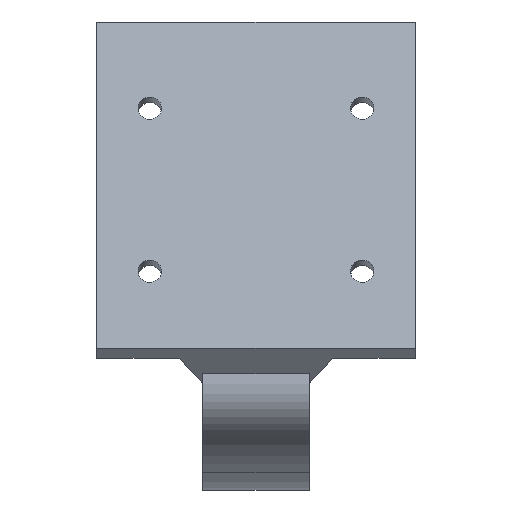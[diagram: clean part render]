
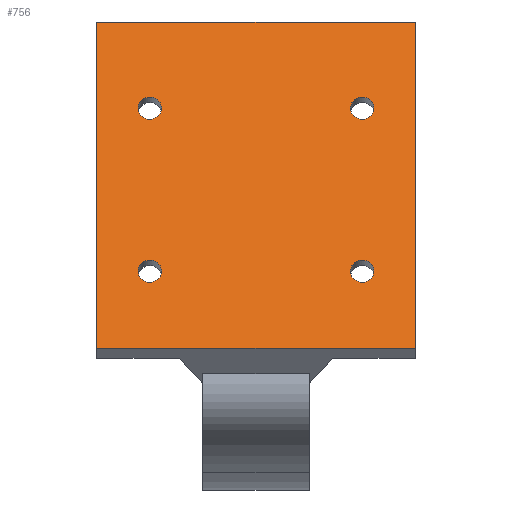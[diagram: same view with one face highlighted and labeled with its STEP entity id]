
A CAD part, top view. The second image highlights one B-rep face of the part: STEP entity #756.
In plain terms, the highlighted planar face has unit normal (0, 0.336, 0.942).
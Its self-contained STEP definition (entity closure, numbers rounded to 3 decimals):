
#37=FACE_BOUND('',#145,.T.);
#38=FACE_BOUND('',#146,.T.);
#39=FACE_BOUND('',#147,.T.);
#40=FACE_BOUND('',#148,.T.);
#77=CIRCLE('',#815,2.);
#78=CIRCLE('',#817,2.);
#79=CIRCLE('',#820,2.);
#80=CIRCLE('',#822,2.);
#102=FACE_OUTER_BOUND('',#144,.T.);
#144=EDGE_LOOP('',(#639,#640,#641,#642));
#145=EDGE_LOOP('',(#643));
#146=EDGE_LOOP('',(#644));
#147=EDGE_LOOP('',(#645));
#148=EDGE_LOOP('',(#646));
#191=LINE('',#1126,#265);
#223=LINE('',#1498,#297);
#225=LINE('',#1501,#299);
#226=LINE('',#1502,#300);
#265=VECTOR('',#897,10.);
#297=VECTOR('',#977,10.);
#299=VECTOR('',#981,10.);
#300=VECTOR('',#982,10.);
#347=VERTEX_POINT('',#1123);
#348=VERTEX_POINT('',#1125);
#371=VERTEX_POINT('',#1280);
#374=VERTEX_POINT('',#1341);
#379=VERTEX_POINT('',#1426);
#382=VERTEX_POINT('',#1487);
#383=VERTEX_POINT('',#1495);
#384=VERTEX_POINT('',#1497);
#421=EDGE_CURVE('',#348,#347,#191,.T.);
#455=EDGE_CURVE('',#371,#371,#77,.T.);
#460=EDGE_CURVE('',#374,#374,#78,.T.);
#468=EDGE_CURVE('',#379,#379,#79,.T.);
#473=EDGE_CURVE('',#382,#382,#80,.T.);
#479=EDGE_CURVE('',#384,#383,#223,.T.);
#481=EDGE_CURVE('',#384,#347,#225,.T.);
#482=EDGE_CURVE('',#348,#383,#226,.T.);
#639=ORIENTED_EDGE('',*,*,#421,.T.);
#640=ORIENTED_EDGE('',*,*,#481,.F.);
#641=ORIENTED_EDGE('',*,*,#479,.T.);
#642=ORIENTED_EDGE('',*,*,#482,.F.);
#643=ORIENTED_EDGE('',*,*,#468,.T.);
#644=ORIENTED_EDGE('',*,*,#455,.T.);
#645=ORIENTED_EDGE('',*,*,#460,.T.);
#646=ORIENTED_EDGE('',*,*,#473,.T.);
#728=PLANE('',#825);
#756=ADVANCED_FACE('',(#102,#37,#38,#39,#40),#728,.T.);
#815=AXIS2_PLACEMENT_3D('',#1281,#945,#946);
#817=AXIS2_PLACEMENT_3D('',#1342,#951,#952);
#820=AXIS2_PLACEMENT_3D('',#1427,#960,#961);
#822=AXIS2_PLACEMENT_3D('',#1488,#966,#967);
#825=AXIS2_PLACEMENT_3D('',#1500,#979,#980);
#897=DIRECTION('',(1.,0.,0.));
#945=DIRECTION('center_axis',(0.,-0.336,-0.942));
#946=DIRECTION('ref_axis',(0.,-0.942,0.336));
#951=DIRECTION('center_axis',(0.,-0.336,-0.942));
#952=DIRECTION('ref_axis',(0.,-0.942,0.336));
#960=DIRECTION('center_axis',(0.,-0.336,-0.942));
#961=DIRECTION('ref_axis',(0.,-0.942,0.336));
#966=DIRECTION('center_axis',(0.,-0.336,-0.942));
#967=DIRECTION('ref_axis',(0.,-0.942,0.336));
#977=DIRECTION('',(-1.,0.,0.));
#979=DIRECTION('center_axis',(0.,0.336,0.942));
#980=DIRECTION('ref_axis',(0.,-0.942,0.336));
#981=DIRECTION('',(0.,-0.942,0.336));
#982=DIRECTION('',(0.,0.942,-0.336));
#1123=CARTESIAN_POINT('',(36.,18.95,81.877));
#1125=CARTESIAN_POINT('',(-18.,18.95,81.877));
#1126=CARTESIAN_POINT('',(-4.5,18.95,81.877));
#1280=CARTESIAN_POINT('',(-9.,33.884,76.543));
#1281=CARTESIAN_POINT('Origin',(-9.,32.001,77.215));
#1341=CARTESIAN_POINT('',(-9.,61.549,66.662));
#1342=CARTESIAN_POINT('Origin',(-9.,59.666,67.335));
#1426=CARTESIAN_POINT('',(27.,61.549,66.662));
#1427=CARTESIAN_POINT('Origin',(27.,59.666,67.335));
#1487=CARTESIAN_POINT('',(27.,33.884,76.543));
#1488=CARTESIAN_POINT('Origin',(27.,32.001,77.215));
#1495=CARTESIAN_POINT('',(-18.,74.285,62.114));
#1497=CARTESIAN_POINT('',(36.,74.285,62.114));
#1498=CARTESIAN_POINT('',(22.5,74.285,62.114));
#1500=CARTESIAN_POINT('Origin',(0.,74.285,62.114));
#1501=CARTESIAN_POINT('',(36.,20.7,81.252));
#1502=CARTESIAN_POINT('',(-18.,70.967,63.299));
